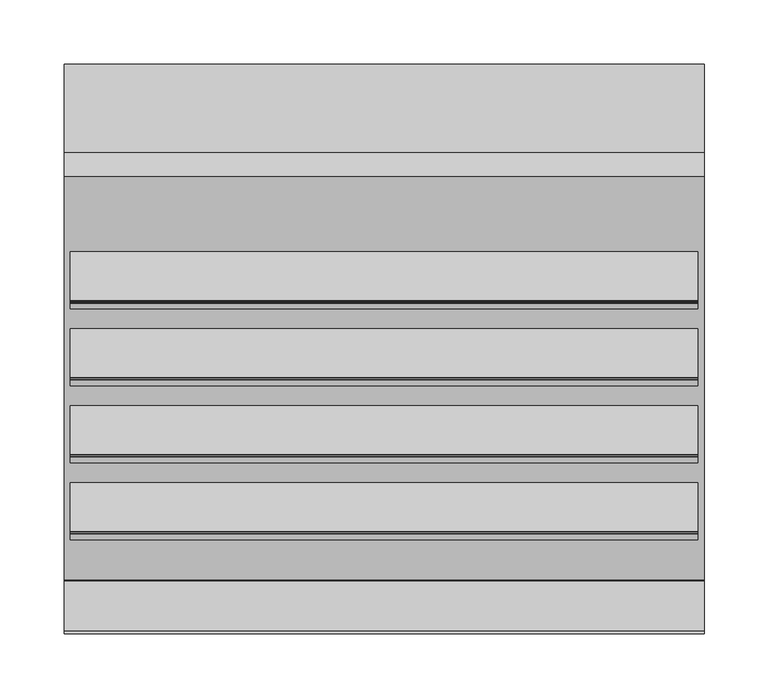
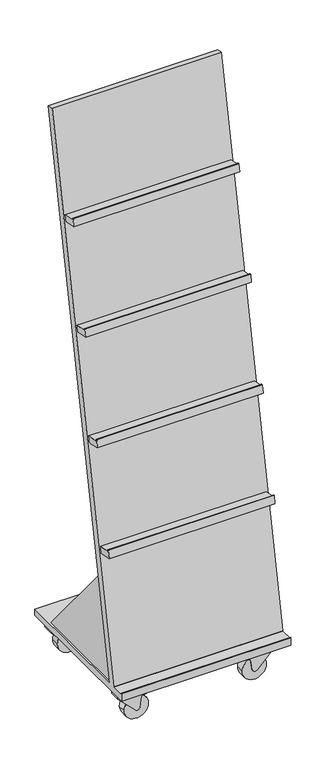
"""IFC4 building model written with IfcOpenShell, lengths in millimetres: furniture geometry, BK Library - Vaesteraas Floor Model - 1700 : BK Library - Vaesteraas Floor Model - 1700."""

from ifc_helpers import new_model, si_unit, point, frame, frame_2d, origin, place, context, project, spatial, polyline, circle_curve, trimmed, segment, composite_curve, outline, extrude, source, transform, mapped, element, save


def furniture_bcf0a29a(model_context):
    return source(origin(), model_context, "Body", "SweptSolid", [
        extrude(outline(polyline([(148.8556172, 117.9690399), (-161.1443828, 117.9690399), (-101.9935942, 422.2734668), (148.8556172, 117.9690399)])), frame((226.0, 0.0, 0.0), z_axis=(1.0, 0.0, 0.0), x_axis=(0.0, 1.0, 0.0)), (0.0, 0.0, 1.0), 19.0),
        extrude(outline(polyline([(148.8556172, 117.9690399), (-161.1443828, 117.9690399), (-101.9935942, 422.2734668), (148.8556172, 117.9690399)])), frame((-245.0, 0.0, 0.0), z_axis=(1.0, 0.0, 0.0), x_axis=(0.0, 1.0, 0.0)), (0.0, 0.0, 1.0), 19.0),
        extrude(outline(composite_curve([segment(polyline([(-28.9158562, 1117.9172645), (-24.4355123, 1140.9666353)]), True, "CONTINUOUS"), segment(trimmed(circle_curve(frame_2d((-23.9258307, 1140.8675633)), 0.5192212), [point((-24.4355123, 1140.9666353))], [point((-23.8267587, 1141.3772449))], False, "CARTESIAN"), True, "CONTINUOUS"), segment(polyline([(-23.8267587, 1141.3772449), (-22.8928244, 1141.1957064)]), True, "CONTINUOUS"), segment(trimmed(circle_curve(frame_2d((-22.9938319, 1140.6760679)), 0.5293644), [point((-22.8928244, 1141.1957064))], [point((-22.4741934, 1140.5750604))], False, "CARTESIAN"), True, "CONTINUOUS"), segment(polyline([(-22.4741934, 1140.5750604), (-23.3272309, 1136.186563), (15.9378565, 1128.5542032), (12.3124855, 1109.9032867), (-28.9158562, 1117.9172645)]), True, "CONTINUOUS")], self_intersect=False)), frame((-245.0, 0.0, 0.0), z_axis=(1.0, 0.0, 0.0), x_axis=(0.0, 1.0, 0.0)), (0.0, 0.0, 1.0), 490.0),
        extrude(outline(composite_curve([segment(polyline([(-89.0206897, 808.7047018), (-84.5366783, 831.7729406)]), True, "CONTINUOUS"), segment(trimmed(circle_curve(frame_2d((-84.0458647, 831.6775361)), 0.5), [point((-84.5366783, 831.7729406))], [point((-83.9504602, 832.1683497))], False, "CARTESIAN"), True, "CONTINUOUS"), segment(polyline([(-83.9504602, 832.1683497), (-82.968833, 831.9775407)]), True, "CONTINUOUS"), segment(trimmed(circle_curve(frame_2d((-83.0642375, 831.4867271)), 0.5), [point((-82.968833, 831.9775407))], [point((-82.5734239, 831.3913226))], False, "CARTESIAN"), True, "CONTINUOUS"), segment(polyline([(-82.5734239, 831.3913226), (-83.4320644, 826.9740003), (-44.1669771, 819.3416404), (-47.792348, 800.6907239), (-89.0206897, 808.7047018)]), True, "CONTINUOUS")], self_intersect=False)), frame((-245.0, 0.0, 0.0), z_axis=(1.0, 0.0, 0.0), x_axis=(0.0, 1.0, 0.0)), (0.0, 0.0, 1.0), 490.0),
        extrude(outline(composite_curve([segment(polyline([(-149.1255233, 499.492139), (-144.6415119, 522.5603778)]), True, "CONTINUOUS"), segment(trimmed(circle_curve(frame_2d((-144.1506983, 522.4649733)), 0.5), [point((-144.6415119, 522.5603778))], [point((-144.0552938, 522.9557869))], False, "CARTESIAN"), True, "CONTINUOUS"), segment(polyline([(-144.0552938, 522.9557869), (-143.0736666, 522.7649779)]), True, "CONTINUOUS"), segment(trimmed(circle_curve(frame_2d((-143.1690711, 522.2741643)), 0.5), [point((-143.0736666, 522.7649779))], [point((-142.6782575, 522.1787598))], False, "CARTESIAN"), True, "CONTINUOUS"), segment(polyline([(-142.6782575, 522.1787598), (-143.536898, 517.7614375), (-104.2718106, 510.1290776), (-107.8971815, 491.4781612), (-149.1255233, 499.492139)]), True, "CONTINUOUS")], self_intersect=False)), frame((-245.0, 0.0, 0.0), z_axis=(1.0, 0.0, 0.0), x_axis=(0.0, 1.0, 0.0)), (0.0, 0.0, 1.0), 490.0),
        extrude(outline(composite_curve([segment(polyline([(31.1889774, 1427.1298273), (35.6693212, 1450.1791981)]), True, "CONTINUOUS"), segment(trimmed(circle_curve(frame_2d((36.1790028, 1450.0801261)), 0.5192212), [point((35.6693212, 1450.1791981))], [point((36.2780749, 1450.5898077))], False, "CARTESIAN"), True, "CONTINUOUS"), segment(polyline([(36.2780749, 1450.5898077), (37.2120091, 1450.4082692)]), True, "CONTINUOUS"), segment(trimmed(circle_curve(frame_2d((37.1110016, 1449.8886307)), 0.5293644), [point((37.2120091, 1450.4082692))], [point((37.6306401, 1449.7876232))], False, "CARTESIAN"), True, "CONTINUOUS"), segment(polyline([(37.6306401, 1449.7876232), (36.7776027, 1445.3991258), (76.04269, 1437.766766), (72.4173191, 1419.1158495), (31.1889774, 1427.1298273)]), True, "CONTINUOUS")], self_intersect=False)), frame((-245.0, 0.0, 0.0), z_axis=(1.0, 0.0, 0.0), x_axis=(0.0, 1.0, 0.0)), (0.0, 0.0, 1.0), 490.0),
        extrude(outline(composite_curve([segment(polyline([(134.3348381, 1737.6538706), (152.9857546, 1734.0284996), (-161.1443828, 117.9690399), (222.5, 117.9690399), (222.5, 98.9690399), (-222.5, 98.9690399), (-222.5, 122.9690399), (-220.5, 122.9690399), (-220.5, 117.9690399), (-181.3243364, 117.9690399)]), True, "CONTINUOUS"), segment(trimmed(circle_curve(frame_2d((-181.3243364, 118.9690399)), 1.0), [point((-181.3243364, 117.9690399))], [point((-180.3427092, 118.7782309))], True, "CARTESIAN"), True, "CONTINUOUS"), segment(polyline([(-180.3427092, 118.7782309), (134.3348381, 1737.6538706)]), True, "CONTINUOUS")], self_intersect=False)), frame((-250.0, 0.0, 0.0), z_axis=(1.0, 0.0, 0.0), x_axis=(0.0, 1.0, 0.0)), (0.0, 0.0, 1.0), 500.0),
        extrude(outline(composite_curve([segment(trimmed(circle_curve(frame_2d((199.5292285, 171.1569734)), 12.5248147), [point((212.0540432, 171.1569734))], [point((187.0044137, 171.1569734))], False, "CARTESIAN"), True, "CONTINUOUS"), segment(trimmed(circle_curve(frame_2d((199.5292285, 171.1569734)), 12.5248147), [point((187.0044137, 171.1569734))], [point((212.0540432, 171.1569734))], False, "CARTESIAN"), True, "CONTINUOUS")], self_intersect=False)), frame((0.0, 0.0, 87.7), z_axis=(0.0, 0.0, 1.0), x_axis=(1.0, 0.0, 0.0)), (0.0, 0.0, 1.0), 11.2690399),
        extrude(outline(composite_curve([segment(trimmed(circle_curve(frame_2d((72.665374, 136.6185255)), 2.0), [point((72.665374, 134.6185255))], [point((70.6957585, 136.2712291))], False, "CARTESIAN"), True, "CONTINUOUS"), segment(polyline([(70.6957585, 136.2712291), (68.1469989, 150.7259632)]), True, "CONTINUOUS"), segment(trimmed(circle_curve(frame_2d((66.1773834, 150.3786669)), 2.0), [point((68.1469989, 150.7259632))], [point((66.4454242, 152.360624))], True, "CARTESIAN"), True, "CONTINUOUS"), segment(polyline([(66.4454242, 152.360624), (34.4278369, 156.6906969)]), True, "CONTINUOUS"), segment(trimmed(circle_curve(frame_2d((35.5, 164.6185255)), 8.0), [point((34.4278369, 156.6906969))], [point((29.8327739, 170.2649888))], False, "CARTESIAN"), True, "CONTINUOUS"), segment(polyline([(29.8327739, 170.2649888), (80.4985188, 221.1170388), (88.2, 221.1170388), (88.2, 134.6185255), (72.665374, 134.6185255)]), True, "CONTINUOUS")], self_intersect=False)), frame((0.0, 155.1101244, 0.0), z_axis=(0.0, 1.0, 0.0), x_axis=(0.0, 0.0, 1.0)), (0.0, 0.0, 1.0), 32.0),
        extrude(outline(composite_curve([segment(trimmed(circle_curve(frame_2d((35.6872146, 164.5149539)), 35.6947525), [point((35.6872146, 128.8202015))], [point((35.6872146, 200.2097064))], False, "CARTESIAN"), True, "CONTINUOUS"), segment(trimmed(circle_curve(frame_2d((35.6872146, 164.5149539)), 35.6947525), [point((35.6872146, 200.2097064))], [point((35.6872146, 128.8202015))], False, "CARTESIAN"), True, "CONTINUOUS")], self_intersect=False)), frame((0.0, 159.1101244, 0.0), z_axis=(0.0, 1.0, 0.0), x_axis=(0.0, 0.0, 1.0)), (0.0, 0.0, 1.0), 24.0),
        extrude(outline(composite_curve([segment(trimmed(circle_curve(frame_2d((199.5292285, -171.1569734)), 12.5248147), [point((212.0540432, -171.1569734))], [point((187.0044137, -171.1569734))], False, "CARTESIAN"), True, "CONTINUOUS"), segment(trimmed(circle_curve(frame_2d((199.5292285, -171.1569734)), 12.5248147), [point((187.0044137, -171.1569734))], [point((212.0540432, -171.1569734))], False, "CARTESIAN"), True, "CONTINUOUS")], self_intersect=False)), frame((0.0, 0.0, 87.7), z_axis=(0.0, 0.0, 1.0), x_axis=(1.0, 0.0, 0.0)), (0.0, 0.0, 1.0), 11.2690399),
        extrude(outline(composite_curve([segment(trimmed(circle_curve(frame_2d((72.665374, 136.6185255)), 2.0), [point((72.665374, 134.6185255))], [point((70.6957585, 136.2712291))], False, "CARTESIAN"), True, "CONTINUOUS"), segment(polyline([(70.6957585, 136.2712291), (68.1469989, 150.7259632)]), True, "CONTINUOUS"), segment(trimmed(circle_curve(frame_2d((66.1773834, 150.3786669)), 2.0), [point((68.1469989, 150.7259632))], [point((66.4454242, 152.360624))], True, "CARTESIAN"), True, "CONTINUOUS"), segment(polyline([(66.4454242, 152.360624), (34.4278369, 156.6906969)]), True, "CONTINUOUS"), segment(trimmed(circle_curve(frame_2d((35.5, 164.6185255)), 8.0), [point((34.4278369, 156.6906969))], [point((29.8327739, 170.2649888))], False, "CARTESIAN"), True, "CONTINUOUS"), segment(polyline([(29.8327739, 170.2649888), (80.4985188, 221.1170388), (88.2, 221.1170388), (88.2, 134.6185255), (72.665374, 134.6185255)]), True, "CONTINUOUS")], self_intersect=False)), frame((0.0, -187.1101244, 0.0), z_axis=(0.0, 1.0, 0.0), x_axis=(0.0, 0.0, 1.0)), (0.0, 0.0, 1.0), 32.0),
        extrude(outline(composite_curve([segment(trimmed(circle_curve(frame_2d((35.6872146, 164.5149539)), 35.6947525), [point((35.6872146, 128.8202015))], [point((35.6872146, 200.2097064))], False, "CARTESIAN"), True, "CONTINUOUS"), segment(trimmed(circle_curve(frame_2d((35.6872146, 164.5149539)), 35.6947525), [point((35.6872146, 200.2097064))], [point((35.6872146, 128.8202015))], False, "CARTESIAN"), True, "CONTINUOUS")], self_intersect=False)), frame((0.0, -183.1101244, 0.0), z_axis=(0.0, 1.0, 0.0), x_axis=(0.0, 0.0, 1.0)), (0.0, 0.0, 1.0), 24.0),
        extrude(outline(composite_curve([segment(trimmed(circle_curve(frame_2d((-199.5292285, -171.1569734)), 12.5248147), [point((-212.0540432, -171.1569734))], [point((-187.0044137, -171.1569734))], False, "CARTESIAN"), True, "CONTINUOUS"), segment(trimmed(circle_curve(frame_2d((-199.5292285, -171.1569734)), 12.5248147), [point((-187.0044137, -171.1569734))], [point((-212.0540432, -171.1569734))], False, "CARTESIAN"), True, "CONTINUOUS")], self_intersect=False)), frame((0.0, 0.0, 87.7), z_axis=(0.0, 0.0, 1.0), x_axis=(1.0, 0.0, 0.0)), (0.0, 0.0, 1.0), 11.2690399),
        extrude(outline(composite_curve([segment(polyline([(72.665374, -154.6185255), (88.2, -154.6185255), (88.2, -241.1170388), (80.4985188, -241.1170388), (29.8327739, -190.2649888)]), True, "CONTINUOUS"), segment(trimmed(circle_curve(frame_2d((35.5, -184.6185255)), 8.0), [point((29.8327739, -190.2649888))], [point((34.4278369, -176.6906969))], False, "CARTESIAN"), True, "CONTINUOUS"), segment(polyline([(34.4278369, -176.6906969), (66.4454242, -172.360624)]), True, "CONTINUOUS"), segment(trimmed(circle_curve(frame_2d((66.1773834, -170.3786669)), 2.0), [point((66.4454242, -172.360624))], [point((68.1469989, -170.7259632))], True, "CARTESIAN"), True, "CONTINUOUS"), segment(polyline([(68.1469989, -170.7259632), (70.6957585, -156.2712291)]), True, "CONTINUOUS"), segment(trimmed(circle_curve(frame_2d((72.665374, -156.6185255)), 2.0), [point((70.6957585, -156.2712291))], [point((72.665374, -154.6185255))], False, "CARTESIAN"), True, "CONTINUOUS")], self_intersect=False)), frame((0.0, -187.1101244, 0.0), z_axis=(0.0, 1.0, 0.0), x_axis=(0.0, 0.0, 1.0)), (0.0, 0.0, 1.0), 32.0),
        extrude(outline(composite_curve([segment(trimmed(circle_curve(frame_2d((35.6872146, -184.5149539)), 35.6947525), [point((35.6872146, -148.8202015))], [point((35.6872146, -220.2097064))], False, "CARTESIAN"), True, "CONTINUOUS"), segment(trimmed(circle_curve(frame_2d((35.6872146, -184.5149539)), 35.6947525), [point((35.6872146, -220.2097064))], [point((35.6872146, -148.8202015))], False, "CARTESIAN"), True, "CONTINUOUS")], self_intersect=False)), frame((0.0, -183.1101244, 0.0), z_axis=(0.0, 1.0, 0.0), x_axis=(0.0, 0.0, 1.0)), (0.0, 0.0, 1.0), 24.0),
        extrude(outline(composite_curve([segment(trimmed(circle_curve(frame_2d((-199.5292285, 171.1569734)), 12.5248147), [point((-212.0540432, 171.1569734))], [point((-187.0044137, 171.1569734))], False, "CARTESIAN"), True, "CONTINUOUS"), segment(trimmed(circle_curve(frame_2d((-199.5292285, 171.1569734)), 12.5248147), [point((-187.0044137, 171.1569734))], [point((-212.0540432, 171.1569734))], False, "CARTESIAN"), True, "CONTINUOUS")], self_intersect=False)), frame((0.0, 0.0, 87.7), z_axis=(0.0, 0.0, 1.0), x_axis=(1.0, 0.0, 0.0)), (0.0, 0.0, 1.0), 11.2690399),
        extrude(outline(composite_curve([segment(polyline([(72.665374, -154.6185255), (88.2, -154.6185255), (88.2, -241.1170388), (80.4985188, -241.1170388), (29.8327739, -190.2649888)]), True, "CONTINUOUS"), segment(trimmed(circle_curve(frame_2d((35.5, -184.6185255)), 8.0), [point((29.8327739, -190.2649888))], [point((34.4278369, -176.6906969))], False, "CARTESIAN"), True, "CONTINUOUS"), segment(polyline([(34.4278369, -176.6906969), (66.4454242, -172.360624)]), True, "CONTINUOUS"), segment(trimmed(circle_curve(frame_2d((66.1773834, -170.3786669)), 2.0), [point((66.4454242, -172.360624))], [point((68.1469989, -170.7259632))], True, "CARTESIAN"), True, "CONTINUOUS"), segment(polyline([(68.1469989, -170.7259632), (70.6957585, -156.2712291)]), True, "CONTINUOUS"), segment(trimmed(circle_curve(frame_2d((72.665374, -156.6185255)), 2.0), [point((70.6957585, -156.2712291))], [point((72.665374, -154.6185255))], False, "CARTESIAN"), True, "CONTINUOUS")], self_intersect=False)), frame((0.0, 155.1101244, 0.0), z_axis=(0.0, 1.0, 0.0), x_axis=(0.0, 0.0, 1.0)), (0.0, 0.0, 1.0), 32.0),
        extrude(outline(composite_curve([segment(trimmed(circle_curve(frame_2d((35.6872146, -184.5149539)), 35.6947525), [point((35.6872146, -148.8202015))], [point((35.6872146, -220.2097064))], False, "CARTESIAN"), True, "CONTINUOUS"), segment(trimmed(circle_curve(frame_2d((35.6872146, -184.5149539)), 35.6947525), [point((35.6872146, -220.2097064))], [point((35.6872146, -148.8202015))], False, "CARTESIAN"), True, "CONTINUOUS")], self_intersect=False)), frame((0.0, 159.1101244, 0.0), z_axis=(0.0, 1.0, 0.0), x_axis=(0.0, 0.0, 1.0)), (0.0, 0.0, 1.0), 24.0),
    ])


if __name__ == "__main__":
    model = new_model("IFC4")
    model_context = context("Model", 3, world=origin())
    ifc_project = project(units=[si_unit("LENGTHUNIT", "METRE", prefix="MILLI")], contexts=[model_context])
    site = spatial("IfcSite", under=ifc_project)
    building = spatial("IfcBuilding", under=site)
    placement = place(None, origin())
    furniture_shape = furniture_bcf0a29a(model_context)
    element("IfcFurniture", 1, ObjectType="BK Library - Vaesteraas Floor Model - 1700 : BK Library - Vaesteraas Floor Model - 1700", at=placement, inside=building, context=model_context, shape_type="MappedRepresentation", body=[
        mapped(furniture_shape, transform((0.0, 0.0, 0.0), x_axis=(1.0, 0.0, 0.0), y_axis=(0.0, 1.0, 0.0), z_axis=(0.0, 0.0, 1.0))),
    ])
    save(model, "model.ifc")
